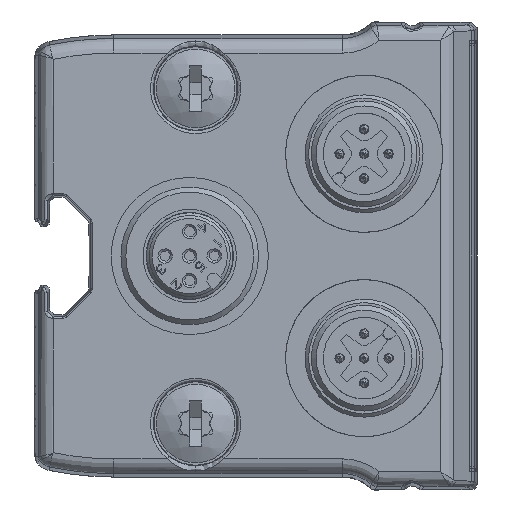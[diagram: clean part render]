
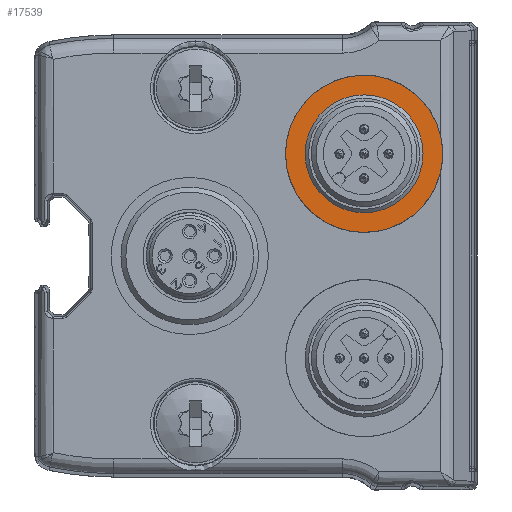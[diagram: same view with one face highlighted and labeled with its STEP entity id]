
A CAD part, left-side view. The second image highlights one B-rep face of the part: STEP entity #17539.
In plain terms, the highlighted planar face has unit normal (-1, 0, 0).
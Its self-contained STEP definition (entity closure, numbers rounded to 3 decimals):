
#894=FACE_BOUND('',#2917,.T.);
#1042=CIRCLE('',#18594,8.);
#1043=CIRCLE('',#18595,6.);
#1866=FACE_OUTER_BOUND('',#2916,.T.);
#2916=EDGE_LOOP('',(#11203));
#2917=EDGE_LOOP('',(#11204));
#7016=VERTEX_POINT('',#25511);
#7017=VERTEX_POINT('',#25513);
#8663=EDGE_CURVE('',#7016,#7016,#1042,.T.);
#8664=EDGE_CURVE('',#7017,#7017,#1043,.T.);
#11203=ORIENTED_EDGE('',*,*,#8663,.T.);
#11204=ORIENTED_EDGE('',*,*,#8664,.F.);
#16066=PLANE('',#18593);
#17539=ADVANCED_FACE('',(#1866,#894),#16066,.T.);
#18593=AXIS2_PLACEMENT_3D('',#25510,#20504,#20505);
#18594=AXIS2_PLACEMENT_3D('',#25512,#20506,#20507);
#18595=AXIS2_PLACEMENT_3D('',#25514,#20508,#20509);
#20504=DIRECTION('center_axis',(-1.,0.,0.));
#20505=DIRECTION('ref_axis',(0.,0.,-1.));
#20506=DIRECTION('center_axis',(-1.,0.,0.));
#20507=DIRECTION('ref_axis',(0.,0.,1.));
#20508=DIRECTION('center_axis',(-1.,0.,0.));
#20509=DIRECTION('ref_axis',(0.,0.,1.));
#25510=CARTESIAN_POINT('Origin',(-21.5,-11.,-10.4));
#25511=CARTESIAN_POINT('',(-21.5,-11.,2.4));
#25512=CARTESIAN_POINT('Origin',(-21.5,-11.,10.4));
#25513=CARTESIAN_POINT('',(-21.5,-11.,16.4));
#25514=CARTESIAN_POINT('Origin',(-21.5,-11.,10.4));
